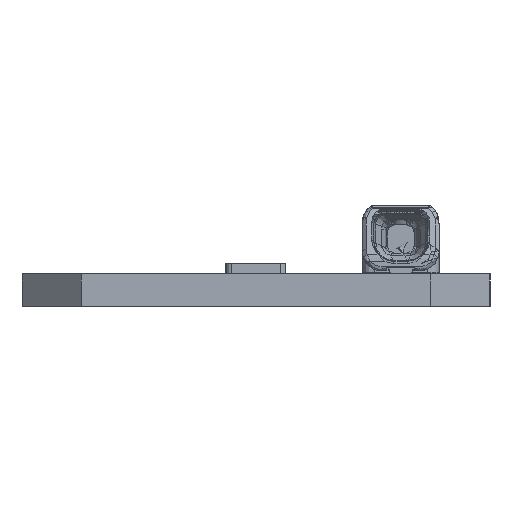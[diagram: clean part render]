
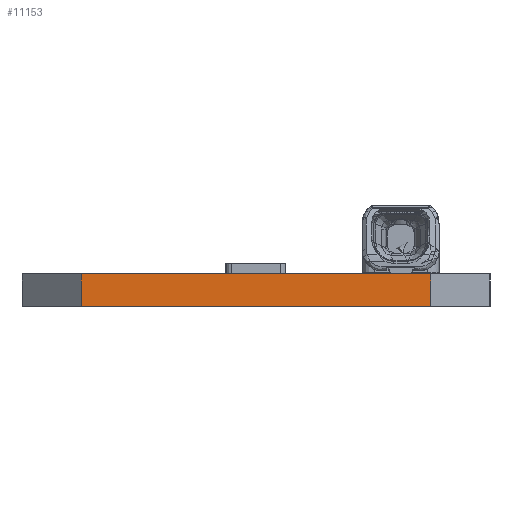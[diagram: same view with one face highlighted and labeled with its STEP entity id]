
A CAD part, left-side view. The second image highlights one B-rep face of the part: STEP entity #11153.
In plain terms, the highlighted planar face has unit normal (-1, 0, 0).
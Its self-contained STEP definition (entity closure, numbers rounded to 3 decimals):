
#115=DIRECTION('',(0.,1.,0.));
#116=VECTOR('',#115,17.6);
#117=CARTESIAN_POINT('',(-279.5,-8.8,0.));
#118=LINE('',#117,#116);
#372=DIRECTION('',(0.,0.,1.));
#373=VECTOR('',#372,1.65);
#374=CARTESIAN_POINT('',(-279.5,-8.8,0.));
#375=LINE('',#374,#373);
#376=DIRECTION('',(0.,1.,0.));
#377=VECTOR('',#376,17.6);
#378=CARTESIAN_POINT('',(-279.5,-8.8,1.65));
#379=LINE('',#378,#377);
#380=DIRECTION('',(0.,0.,1.));
#381=VECTOR('',#380,1.65);
#382=CARTESIAN_POINT('',(-279.5,8.8,0.));
#383=LINE('',#382,#381);
#8246=CARTESIAN_POINT('',(-279.5,-8.8,0.));
#8247=CARTESIAN_POINT('',(-279.5,-8.8,1.65));
#8248=VERTEX_POINT('',#8246);
#8249=VERTEX_POINT('',#8247);
#8270=CARTESIAN_POINT('',(-279.5,8.8,0.));
#8271=VERTEX_POINT('',#8270);
#8382=CARTESIAN_POINT('',(-279.5,8.8,1.65));
#8383=VERTEX_POINT('',#8382);
#11140=CARTESIAN_POINT('',(-279.5,8.8,1.65));
#11141=DIRECTION('',(-1.,0.,0.));
#11142=DIRECTION('',(0.,0.,1.));
#11143=AXIS2_PLACEMENT_3D('',#11140,#11141,#11142);
#11144=PLANE('',#11143);
#11145=ORIENTED_EDGE('',*,*,#11133,.F.);
#11146=ORIENTED_EDGE('',*,*,#10872,.T.);
#11148=ORIENTED_EDGE('',*,*,#11147,.T.);
#11150=ORIENTED_EDGE('',*,*,#11149,.F.);
#11151=EDGE_LOOP('',(#11145,#11146,#11148,#11150));
#11152=FACE_OUTER_BOUND('',#11151,.F.);
#11153=ADVANCED_FACE('',(#11152),#11144,.T.);
#10872=EDGE_CURVE('',#8248,#8271,#118,.T.);
#11133=EDGE_CURVE('',#8248,#8249,#375,.T.);
#11147=EDGE_CURVE('',#8271,#8383,#383,.T.);
#11149=EDGE_CURVE('',#8249,#8383,#379,.T.);
